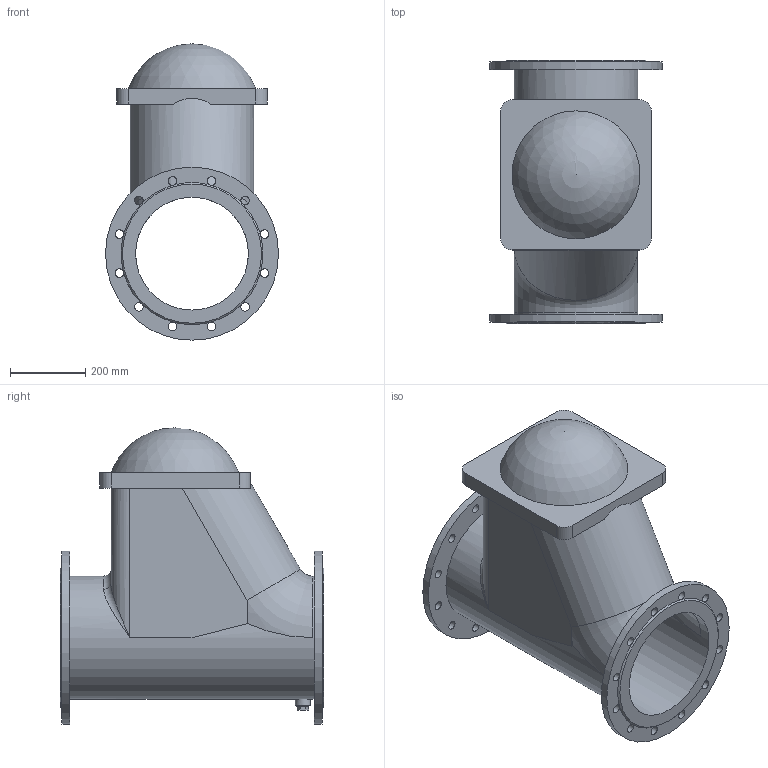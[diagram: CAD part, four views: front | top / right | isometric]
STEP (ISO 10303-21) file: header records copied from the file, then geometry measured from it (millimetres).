
FILE_DESCRIPTION(('STEP AP203'), '1');
FILE_NAME('Êëàïàí îáðàòíûé øàðîâîé ôëàíöåâûé 012F.Z DN300 PN10', '', ('UNSPECIFIED'), ('UNSPECIFIED'), 'ASCON STEP Converter 1.6', 'ASCON Math Kernel', '');
FILE_SCHEMA(('CONFIG_CONTROL_DESIGN'));
Length unit declared in the file: millimetre
Bounding box: 460 x 700 x 788 mm (x, y, z)
Volume: 50746772.1 mm3; surface area: 2574788.2 mm2
Topology: 1 solids, 1 shells, 90 faces, 287 edges, 180 vertices
Faces by surface type: plane 44, cylinder 38, torus 3, bspline 2, cone 2, sphere 1
Full cylindrical faces by diameter (mm): 23 x24, 32 x1, 40 x1, 300 x1, 328 x1, 460 x2
Entity records: 5495 total; most frequent: CARTESIAN_POINT 2221, DIRECTION 549, ORIENTED_EDGE 498, EDGE_CURVE 249, AXIS2_PLACEMENT_3D 246, VERTEX_POINT 179, EDGE_LOOP 158, CIRCLE 157
